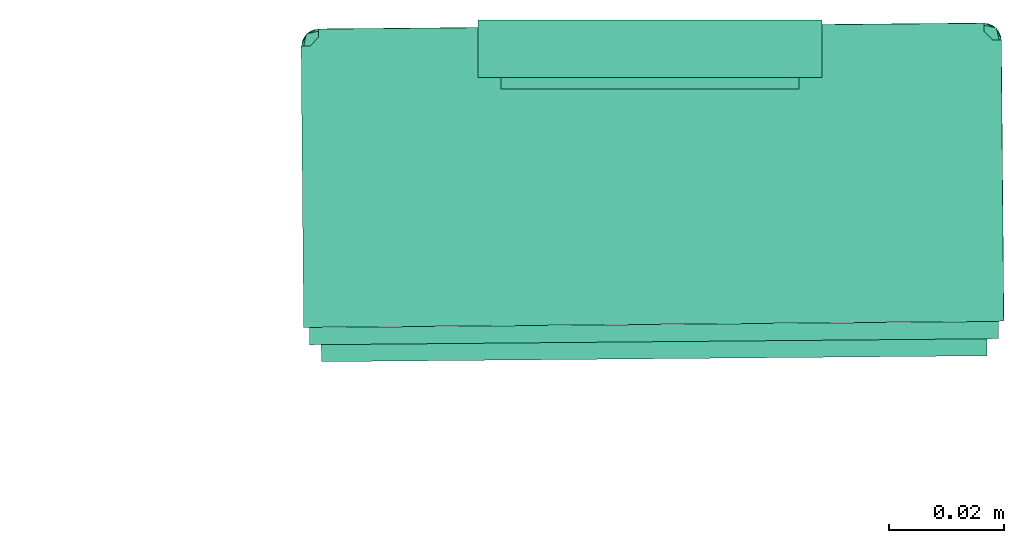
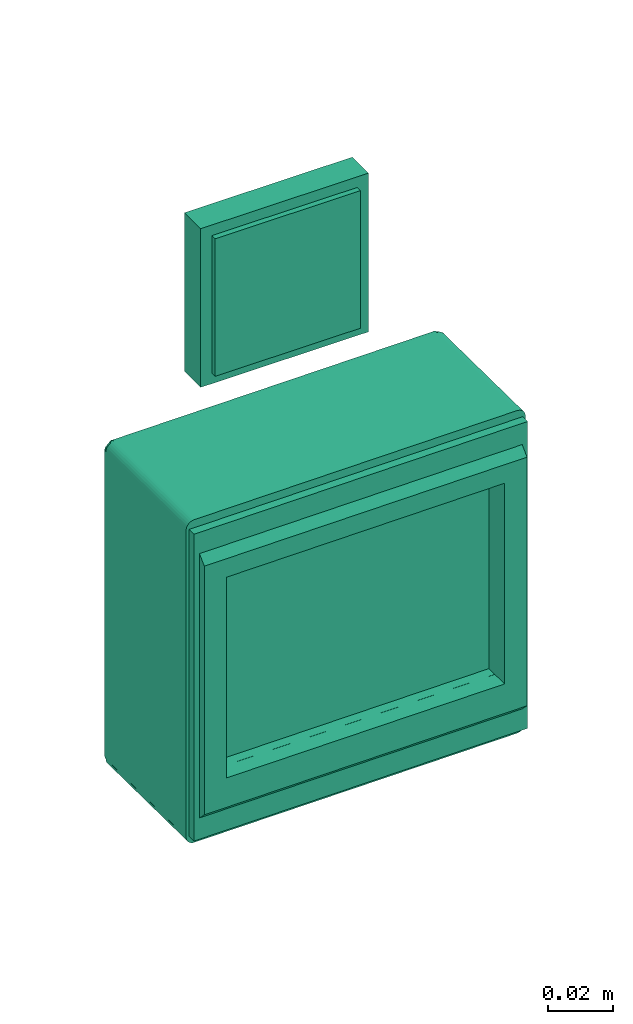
# One storey, part 2 of 2: 2 distribution control elements.
"""IFC2X3 building model written with IfcOpenShell, lengths in millimetres."""

from ifc_helpers import new_model, entity, si_unit, converted_unit, derived_unit, direction, frame, origin_with_axes, place, context, subcontext, project, spatial, open_shell, surface_model, source, transform, mapped, type_object, element, save


model = new_model("IFC2X3")

# Units and contexts
model_context = context("Model", 3, precision=0.01, world=frame((0.0, 4.29681676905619e-09, 0.0)), true_north=direction((4.01073788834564e-13, 1.0)))
plan_context = context("Plan", 3, precision=0.01, world=frame((0.0, 4.29681676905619e-09, 0.0)), true_north=direction((4.01073788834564e-13, 1.0)))
body_context = subcontext(model_context, "Body", "Model", "MODEL_VIEW")
ifc_project = project(units=[converted_unit("PLANEANGLEUNIT", "DEGREE", entity("IfcPositiveLengthMeasure", 0.0174532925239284), si_unit("PLANEANGLEUNIT", "RADIAN"), dimensions=[0, 0, 0, 0, 0, 0, 0]), si_unit("AREAUNIT", "SQUARE_METRE"), si_unit("LENGTHUNIT", "METRE", prefix="MILLI"), si_unit("MASSUNIT", "GRAM", prefix="KILO"), si_unit("POWERUNIT", "WATT"), si_unit("PRESSUREUNIT", "PASCAL", prefix="KILO"), si_unit("FORCEUNIT", "NEWTON", prefix="KILO"), si_unit("ELECTRICVOLTAGEUNIT", "VOLT"), si_unit("ELECTRICCURRENTUNIT", "AMPERE"), si_unit("THERMODYNAMICTEMPERATUREUNIT", "DEGREE_CELSIUS"), si_unit("TIMEUNIT", "SECOND"), si_unit("VOLUMEUNIT", "CUBIC_METRE"), derived_unit("LINEARVELOCITYUNIT", [(si_unit("LENGTHUNIT", "METRE"), 1), (si_unit("TIMEUNIT", "SECOND"), -1)]), derived_unit("VOLUMETRICFLOWRATEUNIT", [(si_unit("VOLUMEUNIT", "CUBIC_METRE"), 1), (si_unit("TIMEUNIT", "SECOND"), -1)]), derived_unit("THERMALTRANSMITTANCEUNIT", [(si_unit("POWERUNIT", "WATT"), 1), (si_unit("THERMODYNAMICTEMPERATUREUNIT", "KELVIN"), -1), (si_unit("AREAUNIT", "SQUARE_METRE"), -1)]), derived_unit("SOUNDPRESSUREUNIT", [(si_unit("PRESSUREUNIT", "PASCAL"), 1)])], contexts=[model_context, plan_context])

# Site, building, storey
site_placement = place(None, frame((0.0, -4.29681676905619e-09, 0.0), z_axis=(0.0, 0.0, 1.0), x_axis=(1.0, 0.0, 0.0)))
site = spatial("IfcSite", under=ifc_project, at=site_placement, Name="ENGM", CompositionType="ELEMENT")
building_placement = place(site_placement, frame((0.0, 4.29681676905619e-09, 0.0), z_axis=(0.0, 0.0, 1.0), x_axis=(1.0, 0.0, 0.0)))
building = spatial("IfcBuilding", under=site, at=building_placement, Name="TS", CompositionType="ELEMENT")
storey_placement = place(building_placement, frame((0.0, 0.0, 204000.0), z_axis=(0.0, 0.0, 1.0), x_axis=(1.0, 0.0, 0.0)))
storey = spatial("IfcBuildingStorey", under=building, at=storey_placement, Name="Nivå D", CompositionType="ELEMENT", Elevation=204000.0)

# Distribution control elements
alarm_type_1 = type_object("IfcAlarmType", Name="Switch with one push button", PredefinedType="NOTDEFINED")
shared_shape_1 = source(origin_with_axes(), body_context, "Body", "SurfaceModel", [
    surface_model("IfcShellBasedSurfaceModel", [(-30.0, 10.0, 30.0), (-30.0, 0.0, 30.0), (30.0, 0.0, 30.0), (30.0, 10.0, 30.0), (30.0, 10.0, -30.0), (30.0, 0.0, -30.0), (-30.0, 0.0, -30.0), (-30.0, 10.0, -30.0), (-26.0, 12.0, 26.0), (-26.0, 10.0, 26.0), (26.0, 12.0, 26.0), (26.0, 10.0, 26.0), (26.0, 12.0, -26.0), (26.0, 10.0, -26.0), (-26.0, 12.0, -26.0), (-26.0, 10.0, -26.0)], [open_shell([[[0, 1, 2]], [[2, 3, 0]], [[4, 5, 6]], [[6, 7, 4]], [[2, 1, 6]], [[6, 5, 2]], [[3, 2, 5]], [[5, 4, 3]], [[0, 3, 4]], [[4, 7, 0]], [[1, 0, 7]], [[7, 6, 1]], [[8, 9, 10]], [[11, 10, 9]], [[12, 13, 14]], [[15, 14, 13]], [[11, 9, 15]], [[15, 13, 11]], [[10, 11, 12]], [[13, 12, 11]], [[8, 10, 12]], [[12, 14, 8]], [[9, 8, 15]], [[14, 15, 8]]])]),
])
distribution_control_element_1_placement = place(storey_placement, frame((596260.39789, 405347.85037, 880.0), z_axis=(0.0, 0.0, 1.0), x_axis=(-1.0, 0.0, 0.0)))
element("IfcDistributionControlElement", 1, at=distribution_control_element_1_placement, inside=storey, type_object=alarm_type_1, Name="Switch with one push button", context=body_context, shape_type="MappedRepresentation", body=[
    mapped(shared_shape_1, transform((0.0, 0.0, 0.0), scale=1.0)),
])
alarm_type_2 = type_object("IfcAlarmType", Name="Nødåpner", PredefinedType="NOTDEFINED")
shared_shape_2 = source(origin_with_axes(), body_context, "Body", "SurfaceModel", [
    surface_model("IfcShellBasedSurfaceModel", [(58.0, 55.0, -50.0), (50.05331, 55.0, -35.88319), (-49.94669, 55.0, -35.88319), (58.0, 55.0, 50.0), (-58.0, 55.0, -50.0), (-58.0, 55.0, 50.0), (50.05331, 55.0, 40.0), (-49.94669, 55.0, 40.0), (-58.0, 58.0, -47.0), (-49.94669, 58.0, -35.88319), (58.0, 58.0, -47.0), (-58.0, 58.0, 47.0), (50.05331, 58.0, -35.88319), (58.0, 58.0, 47.0), (-49.94669, 58.0, 40.0), (50.05331, 58.0, 40.0), (60.0, 52.03664, -58.0), (50.05331, 52.03664, -35.88319), (-49.94669, 52.03664, -35.88319), (60.0, 52.03664, 58.0), (-60.0, 52.03664, -58.0), (-60.0, 52.03664, 58.0), (50.05331, 52.03664, 40.0), (-49.94669, 52.03664, 40.0), (60.0, 55.03664, 58.0), (50.05331, 55.03664, 40.0), (-49.94669, 55.03664, 40.0), (50.05331, 55.03664, -35.88319), (-60.0, 55.03664, 58.0), (-49.94669, 55.03664, -35.88319), (60.0, 55.03664, -58.0), (-60.0, 55.03664, -58.0), (61.0, 52.0, -58.0), (50.05331, 52.0, -35.88319), (61.0, 52.0, 58.0), (-49.94669, 52.0, -35.88319), (50.05331, 52.0, 40.0), (-49.94669, 52.0, 40.0), (-61.0, 52.0, -58.0), (-61.0, 52.0, 58.0), (-61.0, 3.0, 58.0), (-61.0, 3.0, -58.0), (61.0, 3.0, 58.0), (61.0, 3.0, -58.0), (50.05331, 48.40679, 40.0), (-49.94669, 48.40679, 40.0), (-49.94669, 48.40679, -35.88319), (50.05331, 48.40679, -35.88319), (-58.0, 3.0, -58.0), (-58.0, 1.5, -60.59808), (-58.0, 2.22354, -60.89778), (-58.0, 0.87868, -60.12132), (-58.0, 3.0, -61.0), (-58.0, 0.40192, -59.5), (-58.0, 0.10222, -58.77646), (-58.0, 0.0, -58.0), (-58.77646, 3.0, -60.89778), (-59.5, 3.0, -60.59808), (-60.12132, 3.0, -60.12132), (-60.89778, 3.0, -58.77646), (-60.59808, 3.0, -59.5), (-60.12132, 0.87868, -58.0), (58.0, 3.0, -58.0), (-58.0, 52.0, -58.0), (58.0, 52.0, -58.0), (-58.0, 52.0, -61.0), (58.0, 52.0, -61.0), (58.0, 3.0, -61.0), (59.5, 3.0, -60.59808), (58.77646, 3.0, -60.89778), (60.12132, 3.0, -60.12132), (60.89778, 3.0, -58.77646), (60.59808, 3.0, -59.5), (58.0, 2.22354, -60.89778), (58.0, 1.5, -60.59808), (58.0, 0.87868, -60.12132), (58.0, 0.10222, -58.77646), (58.0, 0.40192, -59.5), (58.0, 0.0, -58.0), (60.12132, 0.87868, -58.0), (60.93149, 52.0, -58.78549), (60.6283, 52.0, -59.51745), (60.146, 52.0, -60.146), (61.03491, 52.0, -58.0), (59.51745, 52.0, -60.6283), (58.78549, 52.0, -60.93149), (58.0, 52.0, -61.03491), (60.6283, 3.0, -59.51745), (60.93149, 3.0, -58.78549), (60.146, 3.0, -60.146), (61.03491, 3.0, -58.0), (58.78549, 3.0, -60.93149), (59.51745, 3.0, -60.6283), (58.0, 3.0, -61.03491), (-58.0, 0.14042, -58.76622), (-58.0, 0.03955, -58.0), (-58.0, 0.90664, -60.09336), (-58.0, 0.43617, -59.48023), (-58.0, 1.51977, -60.56383), (-58.0, 2.23378, -60.85958), (-58.0, 3.0, -60.96045), (58.0, 0.03955, -58.0), (58.0, 0.14042, -58.76622), (58.0, 0.43617, -59.48023), (58.0, 0.90664, -60.09336), (58.0, 2.23378, -60.85958), (58.0, 1.51977, -60.56383), (58.0, 3.0, -60.96045), (-57.99994, 52.0, -58.00004), (-60.85952, 52.0, -58.76627), (-60.96039, 52.0, -58.00004), (-60.09329, 52.0, -60.0934), (-60.56376, 52.0, -59.48027), (-59.48016, 52.0, -60.56387), (-58.76616, 52.0, -60.85963), (-57.99994, 52.0, -60.9605), (-60.96039, 3.0, -58.00004), (-60.85952, 3.0, -58.76627), (-57.99994, 3.0, -58.00004), (-60.56376, 3.0, -59.48027), (-60.09329, 3.0, -60.0934), (-58.76616, 3.0, -60.85963), (-59.48016, 3.0, -60.56387), (-57.99994, 3.0, -60.9605), (58.0, 3.0, 61.0), (58.77646, 3.0, 60.89778), (58.0, 3.0, 58.0), (59.5, 3.0, 60.59808), (60.12132, 3.0, 60.12132), (60.89778, 3.0, 58.77646), (60.59808, 3.0, 59.5), (58.0, 2.22354, 60.89778), (58.0, 0.87868, 60.12132), (58.0, 1.5, 60.59808), (58.0, 0.40192, 59.5), (58.0, 0.10222, 58.77646), (58.0, 0.0, 58.0), (60.12132, 0.87868, 58.0), (-58.0, 3.0, 58.0), (-59.5, 3.0, 60.59808), (-58.77646, 3.0, 60.89778), (-60.12132, 3.0, 60.12132), (-58.0, 3.0, 61.0), (-60.89778, 3.0, 58.77646), (-60.59808, 3.0, 59.5), (-58.0, 2.22354, 60.89778), (-58.0, 1.5, 60.59808), (-58.0, 0.87868, 60.12132), (-58.0, 0.40192, 59.5), (-58.0, 0.10222, 58.77646), (-58.0, 0.0, 58.0), (-60.12132, 0.87868, 58.0), (58.0, 52.0, 61.0), (-58.0, 52.0, 61.0), (-58.0, 52.0, 58.0), (58.0, 52.0, 58.0), (60.93149, 3.0, 58.78549), (60.6283, 3.0, 59.51745), (60.146, 3.0, 60.146), (61.03491, 3.0, 58.0), (58.78549, 3.0, 60.93149), (59.51745, 3.0, 60.6283), (58.0, 3.0, 61.03491), (60.6283, 52.0, 59.51745), (60.93149, 52.0, 58.78549), (60.146, 52.0, 60.146), (61.03491, 52.0, 58.0), (59.51745, 52.0, 60.6283), (58.78549, 52.0, 60.93149), (58.0, 52.0, 61.03491), (57.99759, 3.00092, -58.0), (58.76381, 0.14134, -58.0), (57.99759, 0.04046, -58.0), (60.09094, 0.90756, -58.0), (59.47781, 0.43709, -58.0), (60.56141, 1.52069, -58.0), (60.85716, 2.2347, -58.0), (60.95804, 3.00092, -58.0), (57.99759, 0.04046, 58.0), (58.76381, 0.14134, 58.0), (57.99759, 3.00092, 58.0), (59.47781, 0.43709, 58.0), (60.09094, 0.90756, 58.0), (60.85716, 2.2347, 58.0), (60.56141, 1.52069, 58.0), (60.95804, 3.00092, 58.0), (58.0, 3.004, 58.0008), (58.0, 0.14442, 58.76702), (58.0, 0.04355, 58.0008), (58.0, 0.91064, 60.09415), (58.0, 0.44017, 59.48102), (58.0, 1.52377, 60.56462), (58.0, 2.23778, 60.86037), (58.0, 3.004, 60.96125), (-58.0, 0.04355, 58.0008), (-58.0, 0.14442, 58.76702), (-58.0, 3.004, 58.0008), (-58.0, 0.44017, 59.48102), (-58.0, 0.91064, 60.09415), (-58.0, 2.23778, 60.86037), (-58.0, 1.52377, 60.56462), (-58.0, 3.004, 60.96125), (-58.76623, 0.14041, 58.0), (-58.0, 0.03954, 58.0), (-60.09336, 0.90664, 58.0), (-59.48023, 0.43616, 58.0), (-60.56383, 1.51977, 58.0), (-60.85958, 2.23377, 58.0), (-60.96046, 2.99999, 58.0), (-58.76623, 0.14041, -58.0), (-59.48023, 0.43616, -58.0), (-60.09336, 0.90664, -58.0), (-60.85958, 2.23377, -58.0), (-60.56383, 1.51977, -58.0), (-60.96046, 2.99999, -58.0), (-60.85958, 3.0, 58.76622), (-60.09336, 3.0, 60.09336), (-60.56383, 3.0, 59.48023), (-59.48023, 3.0, 60.56383), (-58.76622, 3.0, 60.85958), (-58.0, 3.0, 60.96045), (-60.96045, 52.0, 58.0), (-60.85958, 52.0, 58.76622), (-60.56383, 52.0, 59.48023), (-60.09336, 52.0, 60.09336), (-58.76622, 52.0, 60.85958), (-59.48023, 52.0, 60.56383), (-58.0, 52.0, 60.96045)], [open_shell([[[0, 1, 2]], [[1, 0, 3]], [[4, 2, 5]], [[2, 4, 0]], [[6, 3, 7]], [[3, 6, 1]], [[7, 5, 2]], [[5, 7, 3]], [[8, 9, 10]], [[9, 8, 11]], [[10, 12, 13]], [[12, 10, 9]], [[14, 11, 13]], [[11, 14, 9]], [[15, 13, 12]], [[13, 15, 14]], [[0, 10, 13]], [[13, 3, 0]], [[3, 13, 11]], [[11, 5, 3]], [[5, 11, 4]], [[8, 4, 11]], [[4, 8, 10]], [[10, 0, 4]], [[14, 15, 6]], [[6, 7, 14]], [[12, 9, 2]], [[2, 1, 12]], [[2, 14, 7]], [[14, 2, 9]], [[1, 6, 15]], [[15, 12, 1]], [[16, 17, 18]], [[17, 16, 19]], [[20, 18, 21]], [[18, 20, 16]], [[22, 19, 23]], [[19, 22, 17]], [[23, 21, 18]], [[21, 23, 19]], [[24, 25, 26]], [[25, 24, 27]], [[28, 26, 29]], [[26, 28, 24]], [[27, 30, 29]], [[30, 27, 24]], [[29, 31, 28]], [[31, 29, 30]], [[19, 16, 30]], [[30, 24, 19]], [[21, 19, 24]], [[24, 28, 21]], [[20, 21, 28]], [[28, 31, 20]], [[16, 20, 31]], [[31, 30, 16]], [[26, 25, 22]], [[22, 23, 26]], [[27, 29, 18]], [[18, 17, 27]], [[29, 26, 23]], [[23, 18, 29]], [[17, 22, 25]], [[25, 27, 17]], [[32, 33, 34]], [[33, 32, 35]], [[34, 36, 37]], [[36, 34, 33]], [[35, 38, 39]], [[38, 35, 32]], [[37, 39, 34]], [[39, 37, 35]], [[40, 41, 42]], [[43, 42, 41]], [[38, 32, 43]], [[43, 41, 38]], [[39, 38, 41]], [[41, 40, 39]], [[34, 39, 40]], [[40, 42, 34]], [[32, 34, 42]], [[42, 43, 32]], [[37, 36, 44]], [[44, 45, 37]], [[33, 35, 46]], [[46, 47, 33]], [[46, 37, 45]], [[37, 46, 35]], [[46, 45, 44]], [[44, 47, 46]], [[47, 44, 36]], [[36, 33, 47]], [[48, 49, 50]], [[49, 48, 51]], [[50, 52, 48]], [[53, 48, 54]], [[51, 48, 53]], [[54, 48, 55]], [[56, 57, 48]], [[58, 48, 57]], [[48, 52, 56]], [[59, 48, 60]], [[60, 48, 58]], [[41, 48, 59]], [[61, 48, 41]], [[48, 61, 55]], [[51, 53, 58]], [[49, 51, 57]], [[54, 61, 53]], [[50, 49, 52]], [[54, 55, 61]], [[61, 41, 59]], [[61, 59, 60]], [[57, 51, 58]], [[53, 60, 58]], [[49, 57, 52]], [[52, 57, 56]], [[53, 61, 60]], [[48, 62, 63]], [[64, 63, 62]], [[65, 66, 52]], [[67, 52, 66]], [[64, 62, 67]], [[67, 66, 64]], [[63, 64, 66]], [[66, 65, 63]], [[48, 63, 65]], [[65, 52, 48]], [[62, 48, 52]], [[52, 67, 62]], [[62, 68, 69]], [[68, 62, 70]], [[69, 67, 62]], [[71, 72, 62]], [[70, 62, 72]], [[62, 43, 71]], [[73, 74, 62]], [[75, 62, 74]], [[62, 67, 73]], [[76, 62, 77]], [[77, 62, 75]], [[78, 62, 76]], [[79, 62, 78]], [[62, 79, 43]], [[72, 75, 70]], [[74, 68, 70]], [[79, 72, 71]], [[69, 68, 67]], [[71, 43, 79]], [[79, 78, 76]], [[79, 76, 77]], [[74, 70, 75]], [[72, 77, 75]], [[68, 74, 67]], [[67, 74, 73]], [[72, 79, 77]], [[80, 81, 64]], [[82, 64, 81]], [[64, 83, 80]], [[64, 84, 85]], [[84, 64, 82]], [[85, 86, 64]], [[62, 87, 88]], [[87, 62, 89]], [[88, 90, 62]], [[91, 92, 62]], [[89, 62, 92]], [[62, 93, 91]], [[64, 86, 62]], [[93, 62, 86]], [[83, 64, 62]], [[62, 90, 83]], [[88, 87, 80]], [[90, 88, 83]], [[83, 88, 80]], [[80, 87, 81]], [[87, 82, 81]], [[87, 89, 82]], [[91, 93, 86]], [[92, 91, 85]], [[92, 82, 89]], [[92, 84, 82]], [[84, 92, 85]], [[91, 86, 85]], [[48, 94, 95]], [[96, 97, 48]], [[94, 48, 97]], [[98, 48, 99]], [[99, 48, 100]], [[96, 48, 98]], [[101, 102, 62]], [[62, 103, 104]], [[103, 62, 102]], [[105, 62, 106]], [[107, 62, 105]], [[106, 62, 104]], [[48, 95, 62]], [[101, 62, 95]], [[100, 48, 107]], [[62, 107, 48]], [[99, 107, 105]], [[98, 105, 106]], [[100, 107, 99]], [[99, 105, 98]], [[106, 96, 98]], [[106, 104, 96]], [[94, 103, 102]], [[95, 102, 101]], [[104, 97, 96]], [[104, 103, 97]], [[97, 103, 94]], [[102, 95, 94]], [[108, 109, 110]], [[111, 112, 108]], [[109, 108, 112]], [[113, 108, 114]], [[114, 108, 115]], [[111, 108, 113]], [[116, 117, 118]], [[118, 119, 120]], [[119, 118, 117]], [[121, 118, 122]], [[123, 118, 121]], [[122, 118, 120]], [[108, 110, 116]], [[116, 118, 108]], [[115, 108, 118]], [[118, 123, 115]], [[121, 122, 113]], [[123, 121, 115]], [[115, 121, 114]], [[120, 111, 113]], [[121, 113, 114]], [[113, 122, 120]], [[117, 116, 110]], [[119, 117, 109]], [[120, 112, 111]], [[120, 119, 112]], [[112, 119, 109]], [[117, 110, 109]], [[124, 125, 126]], [[126, 127, 128]], [[127, 126, 125]], [[129, 126, 130]], [[42, 126, 129]], [[130, 126, 128]], [[126, 131, 124]], [[132, 133, 126]], [[131, 126, 133]], [[134, 126, 135]], [[135, 126, 136]], [[132, 126, 134]], [[137, 129, 130]], [[134, 130, 128]], [[127, 125, 124]], [[127, 132, 128]], [[42, 129, 137]], [[127, 124, 133]], [[124, 131, 133]], [[134, 128, 132]], [[127, 133, 132]], [[130, 134, 137]], [[135, 136, 137]], [[135, 137, 134]], [[136, 126, 137]], [[42, 137, 126]], [[138, 139, 140]], [[139, 138, 141]], [[140, 142, 138]], [[143, 144, 138]], [[141, 138, 144]], [[138, 40, 143]], [[145, 146, 138]], [[147, 138, 146]], [[138, 142, 145]], [[138, 148, 149]], [[148, 138, 147]], [[149, 150, 138]], [[151, 138, 150]], [[138, 151, 40]], [[141, 144, 147]], [[139, 141, 146]], [[143, 151, 144]], [[140, 139, 142]], [[143, 40, 151]], [[151, 150, 149]], [[151, 149, 148]], [[146, 141, 147]], [[144, 148, 147]], [[139, 146, 142]], [[142, 146, 145]], [[144, 151, 148]], [[124, 152, 142]], [[153, 142, 152]], [[138, 154, 126]], [[155, 126, 154]], [[153, 152, 155]], [[155, 154, 153]], [[142, 153, 154]], [[154, 138, 142]], [[124, 142, 138]], [[138, 126, 124]], [[152, 124, 126]], [[126, 155, 152]], [[156, 157, 126]], [[158, 126, 157]], [[126, 159, 156]], [[160, 126, 161]], [[161, 126, 158]], [[162, 126, 160]], [[155, 163, 164]], [[163, 155, 165]], [[164, 166, 155]], [[167, 155, 168]], [[165, 155, 167]], [[168, 155, 169]], [[126, 162, 169]], [[169, 155, 126]], [[159, 126, 155]], [[155, 166, 159]], [[164, 163, 156]], [[166, 164, 159]], [[159, 164, 156]], [[156, 163, 157]], [[163, 158, 157]], [[163, 165, 158]], [[168, 169, 162]], [[167, 168, 160]], [[167, 158, 165]], [[167, 161, 158]], [[161, 167, 160]], [[168, 162, 160]], [[170, 171, 172]], [[173, 174, 170]], [[171, 170, 174]], [[175, 170, 176]], [[176, 170, 177]], [[173, 170, 175]], [[178, 179, 180]], [[180, 181, 182]], [[181, 180, 179]], [[183, 180, 184]], [[185, 180, 183]], [[184, 180, 182]], [[170, 172, 180]], [[178, 180, 172]], [[177, 170, 185]], [[180, 185, 170]], [[176, 185, 183]], [[175, 183, 184]], [[177, 185, 176]], [[176, 183, 175]], [[184, 173, 175]], [[184, 182, 173]], [[171, 181, 179]], [[172, 179, 178]], [[182, 174, 173]], [[182, 181, 174]], [[174, 181, 171]], [[179, 172, 171]], [[186, 187, 188]], [[189, 190, 186]], [[187, 186, 190]], [[191, 186, 192]], [[192, 186, 193]], [[189, 186, 191]], [[194, 195, 196]], [[196, 197, 198]], [[197, 196, 195]], [[199, 196, 200]], [[201, 196, 199]], [[200, 196, 198]], [[186, 188, 196]], [[194, 196, 188]], [[193, 186, 201]], [[196, 201, 186]], [[192, 201, 199]], [[191, 199, 200]], [[193, 201, 192]], [[192, 199, 191]], [[200, 189, 191]], [[200, 198, 189]], [[187, 197, 195]], [[188, 195, 194]], [[198, 190, 189]], [[198, 197, 190]], [[190, 197, 187]], [[195, 188, 187]], [[138, 202, 203]], [[204, 205, 138]], [[202, 138, 205]], [[206, 138, 207]], [[207, 138, 208]], [[204, 138, 206]], [[95, 209, 48]], [[48, 210, 211]], [[210, 48, 209]], [[212, 48, 213]], [[214, 48, 212]], [[213, 48, 211]], [[138, 203, 48]], [[95, 48, 203]], [[208, 138, 214]], [[48, 214, 138]], [[207, 214, 212]], [[206, 212, 213]], [[208, 214, 207]], [[207, 212, 206]], [[213, 204, 206]], [[213, 211, 204]], [[202, 210, 209]], [[203, 209, 95]], [[211, 205, 204]], [[211, 210, 205]], [[205, 210, 202]], [[209, 203, 202]], [[138, 215, 208]], [[216, 217, 138]], [[215, 138, 217]], [[218, 138, 219]], [[219, 138, 220]], [[216, 138, 218]], [[221, 222, 154]], [[154, 223, 224]], [[223, 154, 222]], [[225, 154, 226]], [[227, 154, 225]], [[226, 154, 224]], [[138, 208, 154]], [[221, 154, 208]], [[220, 138, 154]], [[154, 227, 220]], [[225, 226, 218]], [[227, 225, 220]], [[220, 225, 219]], [[224, 216, 218]], [[225, 218, 219]], [[218, 226, 224]], [[222, 221, 208]], [[223, 222, 215]], [[224, 217, 216]], [[224, 223, 217]], [[217, 223, 215]], [[222, 208, 215]], [[55, 78, 150]], [[136, 150, 78]], [[138, 126, 48]], [[62, 48, 126]], [[136, 78, 62]], [[62, 126, 136]], [[150, 136, 126]], [[126, 138, 150]], [[55, 150, 138]], [[138, 48, 55]], [[78, 55, 48]], [[48, 62, 78]]])]),
])
distribution_control_element_2_placement = place(storey_placement, frame((596260.61832, 405346.826, 775.0), z_axis=(0.0, 0.0, 1.0), x_axis=(-0.999960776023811, -0.00885699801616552, 0.0)))
element("IfcDistributionControlElement", 2, at=distribution_control_element_2_placement, inside=storey, type_object=alarm_type_2, Name="Nødåpner", context=body_context, shape_type="MappedRepresentation", body=[
    mapped(shared_shape_2, transform((0.0, 0.0, 0.0), scale=1.0)),
])

save(model, "model.ifc")
